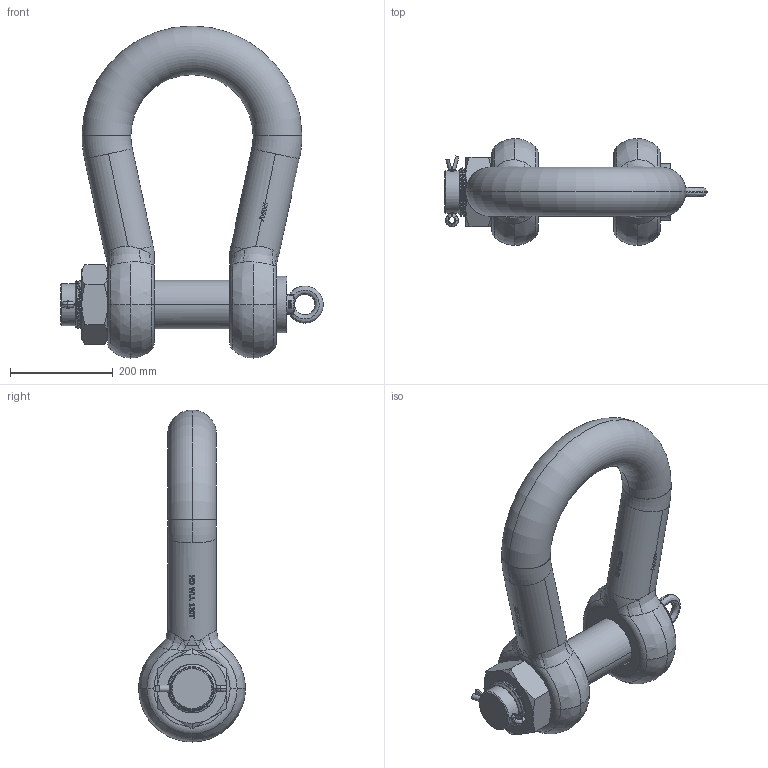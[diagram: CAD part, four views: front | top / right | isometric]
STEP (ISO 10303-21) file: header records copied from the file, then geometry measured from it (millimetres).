
FILE_DESCRIPTION(('STEP AP214'),'1');
FILE_NAME('hdgphm0120.stp','2017-05-11T05:24:54',('TraceParts'),('TraceParts S.A.'),'Spatial InterOp 3D',' ',' ');
FILE_SCHEMA(('automotive_design'));
Length unit declared in the file: millimetre
Products named in the file (5): HDGPHM0120|HDGPHM0120_1#HDGPHM0120_1;MANIFOLD_SOLID_BREP #20144; HDGPHM0120|HDGPHM0120_1#HDGPHM0120_2;MANIFOLD_SOLID_BREP #35817; hdgphm0120_3; hdgphm0120_4; hdgphm0120_5
Bounding box: 511 x 208 x 646.5 mm (x, y, z)
Volume: 14601634.6 mm3; surface area: 774861.8 mm2
Topology: 5 solids, 5 shells, 1199 faces, 4215 edges, 3075 vertices
Faces by surface type: bspline 423, plane 410, cylinder 304, torus 36, cone 26
Entity records: 89498 total; most frequent: CARTESIAN_POINT 50224, ORIENTED_EDGE 8426, EDGE_CURVE 4213, VERTEX_POINT 3075, B_SPLINE_CURVE_WITH_KNOTS 2945, DIRECTION 2875, EDGE_LOOP 1260, STYLED_ITEM 1204
